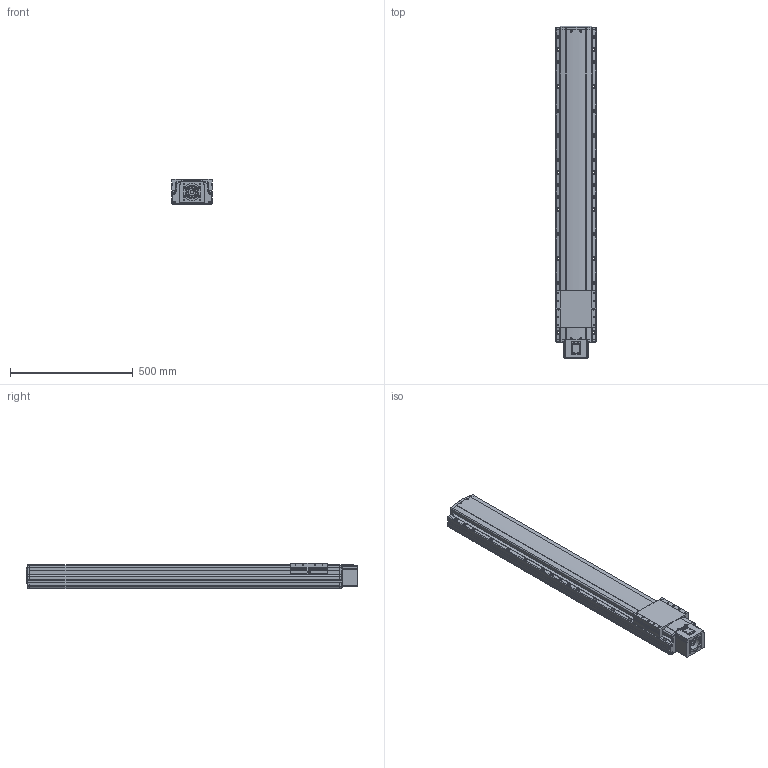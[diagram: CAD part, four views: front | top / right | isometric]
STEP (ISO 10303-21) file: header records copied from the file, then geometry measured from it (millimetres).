
FILE_DESCRIPTION(('STEP AP214'),'1');
FILE_NAME('Z:/Web/3D/PSA165/STP/PSA165-1000 (3D)/PSA165ㅁㅁ-1000S.stp','2014-06-24T10:22:50',(' '),(' '),'Spatial InterOp 3D',' ',' ');
FILE_SCHEMA(('automotive_design'));
Length unit declared in the file: millimetre
Products named in the file (67): 스크루 : Round - M4.0 x 12.0; RRCV-PA160; BASE; 스크루 : Round - M4.0 x 10.0; RN15; Screw 20; SLIDE; FRCV; 스크루 : Socket - M6.0 x 25.0; MTHZ-SAN150-80A; SSFX-SAN65; CPLCV-SAN65; 스크루 : Round - M3.0 x 6.0; SDWA47C(2); SDWA47C(3-1); SDWA47C(3); SDWA47C(1); SDWA47C(4); SDWA47C(5)
Bounding box: 165 x 1349.8 x 104 mm (x, y, z)
Volume: 18053759.5 mm3; surface area: 1186301.9 mm2
Topology: 67 solids, 67 shells, 3100 faces, 8279 edges, 5313 vertices
Faces by surface type: plane 1404, cylinder 1210, cone 377, sphere 50, bspline 35, torus 24
Entity records: 127479 total; most frequent: CARTESIAN_POINT 22545, DIRECTION 17191, ORIENTED_EDGE 16214, EDGE_CURVE 8107, AXIS2_PLACEMENT_3D 6249, VERTEX_POINT 5313, LINE 4693, VECTOR 4693
